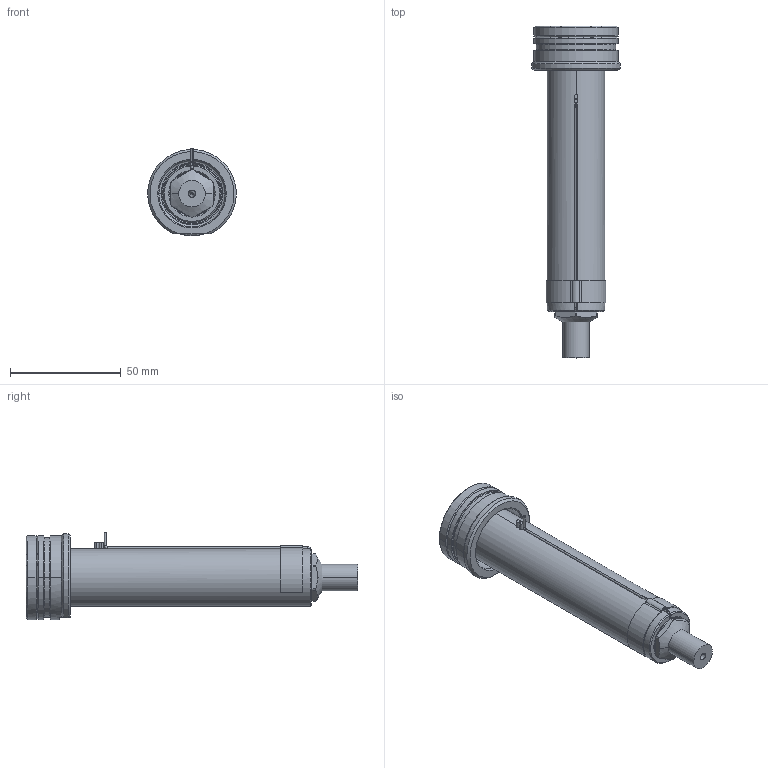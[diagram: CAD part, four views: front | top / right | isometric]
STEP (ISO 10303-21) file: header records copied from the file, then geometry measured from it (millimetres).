
FILE_DESCRIPTION((''),'2;1');
FILE_NAME('EO08_PG-FBE_WR_120_SW','2024-02-19T11:56:32',('sundharh'),(''),'CREO PARAMETRIC BY PTC INC, 2023154','CREO PARAMETRIC BY PTC INC, 2023154','');
FILE_SCHEMA(('CONFIG_CONTROL_DESIGN'));
Length unit declared in the file: millimetre
Products named in the file (1): EO08_PG-FBE_WR_120_SW
Bounding box: 39.88 x 150 x 39.52 mm (x, y, z)
Volume: 74886.6 mm3; surface area: 22405.7 mm2
Topology: 1 solids, 1 shells, 210 faces, 558 edges, 344 vertices
Faces by surface type: cylinder 81, plane 58, cone 45, torus 19, bspline 4, sphere 3
Entity records: 8089 total; most frequent: CARTESIAN_POINT 2755, DIRECTION 1176, ORIENTED_EDGE 1104, EDGE_CURVE 552, AXIS2_PLACEMENT_3D 491, VERTEX_POINT 344, CIRCLE 285, EDGE_LOOP 228
